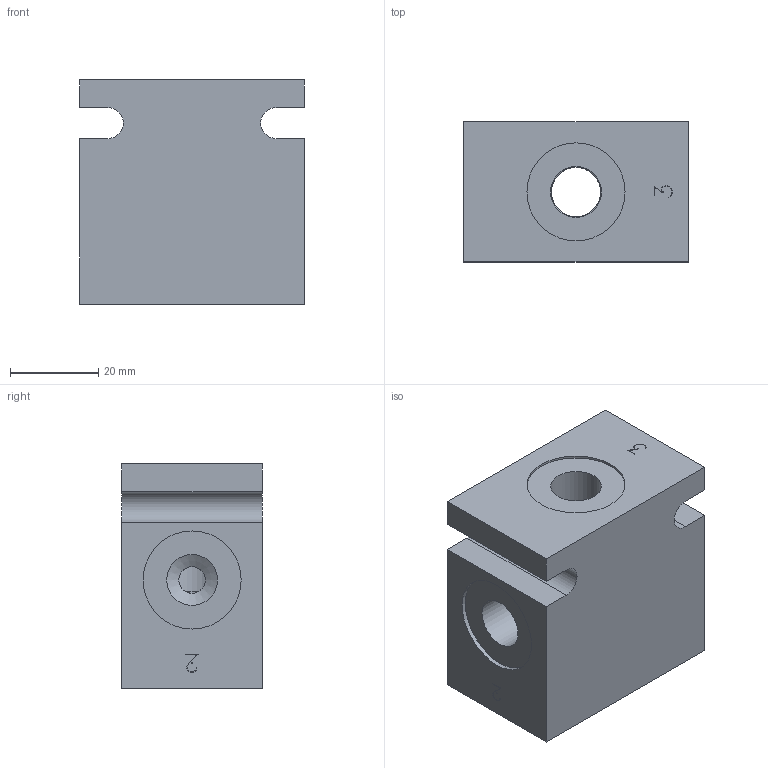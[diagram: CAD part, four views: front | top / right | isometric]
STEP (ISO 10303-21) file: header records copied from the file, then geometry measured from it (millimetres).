
FILE_DESCRIPTION( ( 'Unknown' ), '1' );
FILE_NAME( 'G:/Graphic Design/Graphic Design 2/Data Sheets/Delta Bodies/DRAWINGS/B-DMC3A.stp', 'Unknown', ( 'Unknown' ), ( 'Unknown' ), 'PSStep 16.0.42', 'Unknown', ' ' );
FILE_SCHEMA( ( 'AUTOMOTIVE_DESIGN { 1 0 10303 214 1 1 1 1 }' ) );
Length unit declared in the file: millimetre
Products named in the file (2): Assem1; B-DMCA3
Assembly tree (1 placements, depth 2):
  Assem1
    B-DMCA3
Bounding box: 50.8 x 31.75 x 50.8 mm (x, y, z)
Surface area: 15348 mm2 (no closed solid volume)
Topology: 0 solids, 120 shells, 120 faces, 615 edges, 589 vertices
Faces by surface type: plane 90, cylinder 23, cone 7
Full cylindrical faces by diameter (mm): 0.2 x3, 6 x2, 11.151 x1, 11.5 x6, 12.76 x1, 14.348 x2, 16.48 x1, 22.22 x2, 26.975 x1
Entity records: 6674 total; most frequent: CARTESIAN_POINT 1798, DIRECTION 618, ORIENTED_EDGE 572, EDGE_CURVE 572, VERTEX_POINT 572, B_SPLINE_CURVE_WITH_KNOTS 280, LINE 210, VECTOR 210
